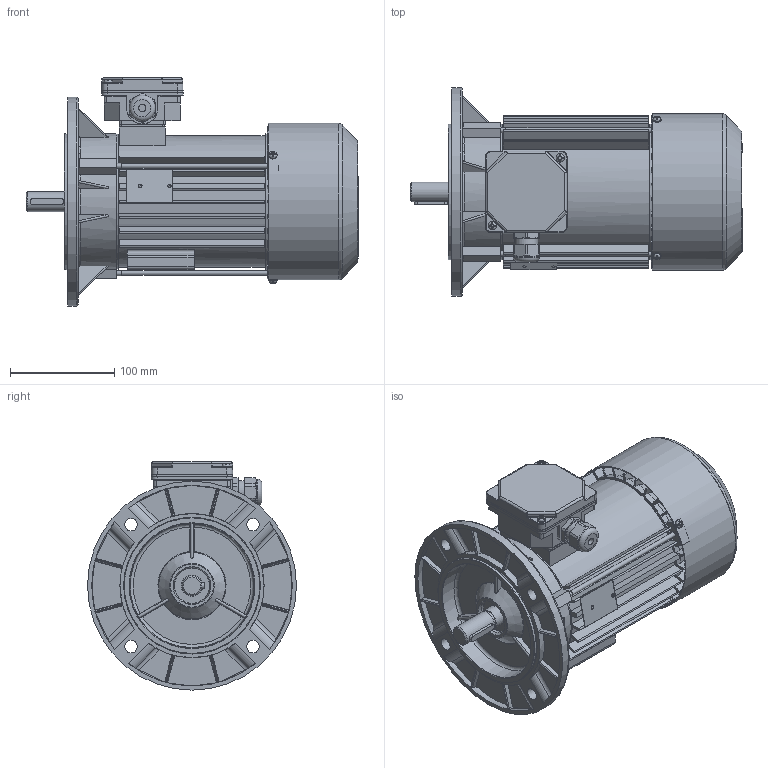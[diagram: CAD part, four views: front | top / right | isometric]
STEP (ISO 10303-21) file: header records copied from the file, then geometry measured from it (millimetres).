
FILE_DESCRIPTION( ( 'Unknown' ), '1' );
FILE_NAME( 'G:/Poczta Tk-1/STP/w.m.80/Sh80/SKh80x-.D.stp', 'Unknown', ( 'K. Szlosek' ), ( 'BESEL S.A.' ), 'PSStep 17.0.49', 'Unknown', ' ' );
FILE_SCHEMA( ( 'AUTOMOTIVE_DESIGN { 1 0 10303 214 1 1 1 1 }' ) );
Length unit declared in the file: millimetre
Products named in the file (29): skrznka zaciskowa trójfazowa ; K4-2820 Uszczelka nr 2 Sh71,80; Dławnica M20x1,5; K2-0859 Podstawa skrzynki 6-cio zaciskowej; K2-0860 Pokrywka skrzynki zaciskowej; Assem1; K1-1257 Kadłub S(E,M)h80-C i D; Wkręt samogwintujący M4x16; Wkręt samogwintujący M4x10; K4-2320 Uszczelka nr 1 Sh71,80; Wpust A6x6x32; K2-1715 Przewietrznik; Nitokołek A 2x6; Łożysko 6204; Śruba ściągająca E_M5x168; Tabliczka znamionowa 32x44; K3-6857 Tarcza łożyskowa P S(E,M)h80-B,D; K3-2964 Osłona przewietrznika Sh80,90; K3-5645 wał S(E,M)h80-.D; K1-1258  zmiana Tarcza kołnierzowa B5 SKh80-..
Assembly tree (44 placements, depth 3):
  Assem1
    K1-1257 Kadłub S(E,M)h80-C i D
    Wkręt samogwintujący M4x16  x2
    Wkręt samogwintujący M4x10  x3
    K4-2320 Uszczelka nr 1 Sh71,80
    Wpust A6x6x32
    K2-1715 Przewietrznik
    Nitokołek A 2x6  x2
    Łożysko 6204  x2
    Łożysko 6204  x2
    Łożysko 6204  x2
    Łożysko 6204  x2
    Łożysko 6204  x2
    Łożysko 6204  x2
    Łożysko 6204  x2
    Łożysko 6204  x2
    Łożysko 6204  x2
    Łożysko 6204  x2
    Śruba ściągająca E_M5x168  x3
    Tabliczka znamionowa 32x44
    K3-6857 Tarcza łożyskowa P S(E,M)h80-B,D
    K3-2964 Osłona przewietrznika Sh80,90
    K3-5645 wał S(E,M)h80-.D
    K1-1258  zmiana Tarcza kołnierzowa B5 SKh80-..
    skrznka zaciskowa trójfazowa 
      K4-2820 Uszczelka nr 2 Sh71,80
      Dławnica M20x1,5
      K2-0859 Podstawa skrzynki 6-cio zaciskowej
      K2-0860 Pokrywka skrzynki zaciskowej
Bounding box: 317.8 x 200 x 218.5 mm (x, y, z)
Volume: 1023516 mm3; surface area: 631078.8 mm2
Topology: 43 solids, 59 shells, 2478 faces, 6800 edges, 4427 vertices
Faces by surface type: plane 1227, cylinder 804, torus 166, cone 144, bspline 101, sphere 36
Full cylindrical faces by diameter (mm): 2 x2, 2.4 x2, 3.7 x11, 4 x6, 4.134 x3, 4.5 x1, 4.6 x3, 4.8 x4, 5 x7, 5.5 x3, 7 x1, 8 x9, 12 x4, 18.376 x1, 18.38 x1, 18.6 x1, 19 x1, 19.3 x1, 19.5 x2, 19.6 x2, 19.9 x1, 20 x5, 20.4 x2, 22.3 x1, 25 x1, 25.5 x1, 25.6 x1, 26 x4, 28.802 x4, 34 x2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
Entity records: 122992 total; most frequent: CARTESIAN_POINT 47240, ORIENTED_EDGE 12164, DIRECTION 11787, EDGE_CURVE 6082, AXIS2_PLACEMENT_3D 4336, VERTEX_POINT 4098, LINE 3115, VECTOR 3115
